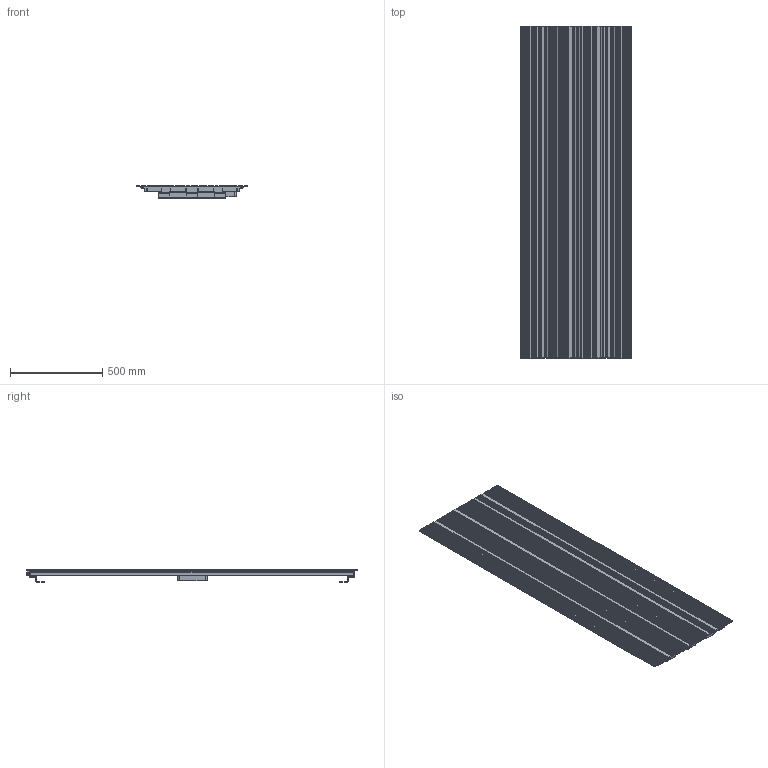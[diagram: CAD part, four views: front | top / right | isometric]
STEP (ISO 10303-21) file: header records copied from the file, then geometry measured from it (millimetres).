
FILE_DESCRIPTION((''),'2;1');
FILE_NAME('3583760000002_3D_SITO','2022-08-08T17:16:40',('pc104'),(''),'CREO PARAMETRIC BY PTC INC, 2022124','CREO PARAMETRIC BY PTC INC, 2022124','');
FILE_SCHEMA(('AUTOMOTIVE_DESIGN { 1 0 10303 214 1 1 1 1 }'));
Length unit declared in the file: millimetre
Products named in the file (1): 3583760000002_3D_SITO
Bounding box: 603 x 1800 x 68.2 mm (x, y, z)
Volume: 19852395.3 mm3; surface area: 3959491.9 mm2
Topology: 3 solids, 3 shells, 743 faces, 2127 edges, 1384 vertices
Faces by surface type: plane 412, cylinder 313, sphere 16, bspline 2
Entity records: 34015 total; most frequent: CARTESIAN_POINT 5129, DIRECTION 4490, ORIENTED_EDGE 4254, PRESENTATION_STYLE_ASSIGNMENT 2367, STYLED_ITEM 2367, CURVE_STYLE 2364, EDGE_CURVE 2127, VECTOR 1737
